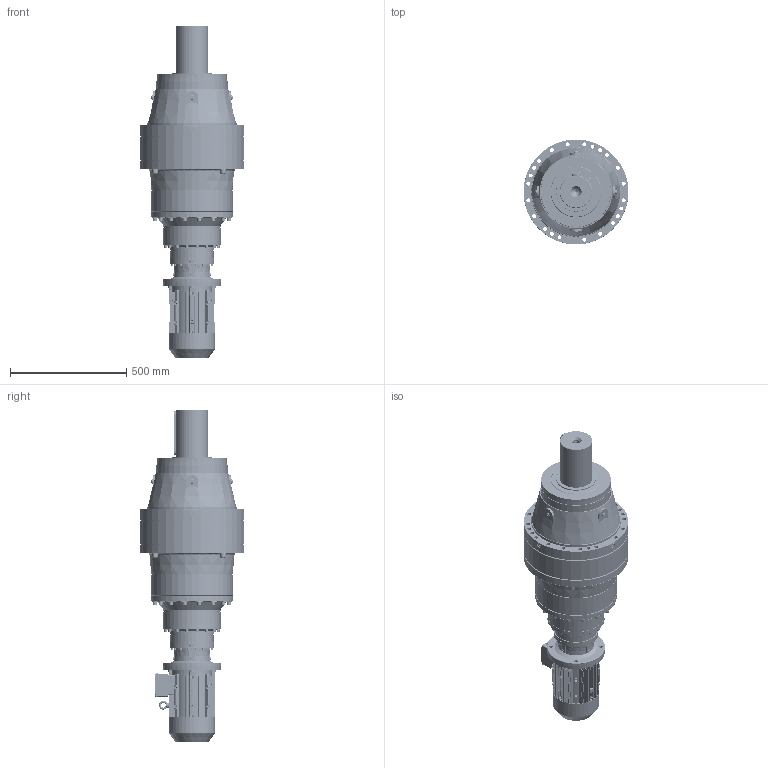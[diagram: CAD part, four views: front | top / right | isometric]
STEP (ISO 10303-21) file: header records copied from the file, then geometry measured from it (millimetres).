
FILE_DESCRIPTION (( 'STEP AP203' ), '1' );
FILE_NAME ('PVL_3504L-MX100L-4.STEP', '2019-05-09T09:03:46', ( '' ), ( '' ), 'SwSTEP 2.0', 'SolidWorks 2012', '' );
FILE_SCHEMA (( 'CONFIG_CONTROL_DESIGN' ));
Products named in the file (19): MX3-100L_B5; PVL_3504L-MX100L-4; IE3 100 fan cover; IE3 100 shaft cover; IE3 100 B5 flange; plain parallel keys_GB_CONNECTING_PIECE_KEYS_CSK 8X50; IE3 100 terminal box cover; IE3 100 fan; IE3 100 terminal box base; IE3 100 casing; eyebolts gb_GB_FASTENER_SCREWS_FRS M8-N; IE3 100 B3 Shield; IE3 100 Shaft; FL17A_Varsayìlan; PNL_3504L_0_0_A10_B5_ML55A_FL17A_0_0_0_0_0_0_0_0_0_0_0_M1; EK3504L_Varsayìlan; ML55A_Varsayìlan; 11100B5_Varsayìlan; P35_Varsayìlan
Assembly tree (19 placements, depth 3):
  PVL_3504L-MX100L-4
    PNL_3504L_0_0_A10_B5_ML55A_FL17A_0_0_0_0_0_0_0_0_0_0_0_M1
      P35_Varsayìlan
      11100B5_Varsayìlan
      ML55A_Varsayìlan
      EK3504L_Varsayìlan
      FL17A_Varsayìlan
    MX3-100L_B5
      IE3 100 casing
      IE3 100 B3 Shield
      IE3 100 Shaft
      eyebolts gb_GB_FASTENER_SCREWS_FRS M8-N
      IE3 100 terminal box base
      IE3 100 terminal box cover
      IE3 100 fan
      IE3 100 fan cover
      plain parallel keys_GB_CONNECTING_PIECE_KEYS_CSK 8X50
      IE3 100 shaft cover  x2
      IE3 100 B5 flange
Bounding box: 450 x 450 x 1425.61 mm (x, y, z)
Volume: 83871861 mm3; surface area: 3498163.7 mm2
Topology: 26 solids, 28 shells, 7865 faces, 20378 edges, 12497 vertices
Faces by surface type: plane 2701, cylinder 2167, bspline 2023, cone 574, torus 308, sphere 92
Entity records: 314438 total; most frequent: CARTESIAN_POINT 135704, ORIENTED_EDGE 39846, DIRECTION 33524, EDGE_CURVE 19923, AXIS2_PLACEMENT_3D 12720, VERTEX_POINT 12389, EDGE_LOOP 8606, LINE 8084
